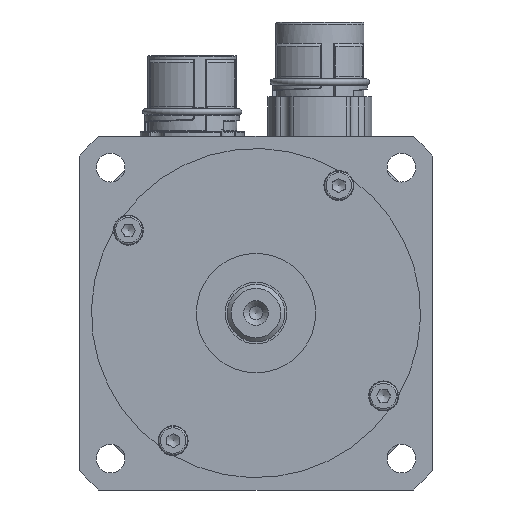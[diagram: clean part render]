
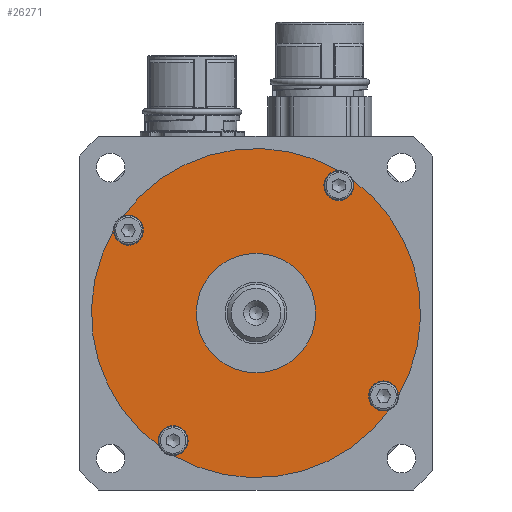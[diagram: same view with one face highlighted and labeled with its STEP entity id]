
A CAD part, left-side view. The second image highlights one B-rep face of the part: STEP entity #26271.
In plain terms, the highlighted planar face has unit normal (-1, 0, 0).
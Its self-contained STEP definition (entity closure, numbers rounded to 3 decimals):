
#1045=FACE_BOUND('',#5862,.T.);
#4150=FACE_OUTER_BOUND('',#5861,.T.);
#5861=EDGE_LOOP('',(#18541,#18542,#18543,#18544,#18545,#18546,#18547,#18548));
#5862=EDGE_LOOP('',(#18549));
#10350=CIRCLE('',#28140,40.);
#10352=CIRCLE('',#28143,40.);
#10354=CIRCLE('',#28146,40.);
#10368=CIRCLE('',#28162,3.65);
#10369=CIRCLE('',#28163,3.65);
#10370=CIRCLE('',#28164,3.65);
#10371=CIRCLE('',#28165,3.65);
#10372=CIRCLE('',#28166,40.);
#10373=CIRCLE('',#28167,14.5);
#12199=VERTEX_POINT('',#40042);
#12201=VERTEX_POINT('',#40046);
#12203=VERTEX_POINT('',#40051);
#12205=VERTEX_POINT('',#40055);
#12207=VERTEX_POINT('',#40060);
#12209=VERTEX_POINT('',#40064);
#12224=VERTEX_POINT('',#40100);
#12225=VERTEX_POINT('',#40104);
#12226=VERTEX_POINT('',#40107);
#14654=EDGE_CURVE('',#12199,#12201,#10350,.T.);
#14658=EDGE_CURVE('',#12203,#12205,#10352,.T.);
#14662=EDGE_CURVE('',#12207,#12209,#10354,.T.);
#14680=EDGE_CURVE('',#12207,#12224,#10368,.T.);
#14681=EDGE_CURVE('',#12203,#12209,#10369,.T.);
#14682=EDGE_CURVE('',#12199,#12205,#10370,.T.);
#14683=EDGE_CURVE('',#12225,#12201,#10371,.T.);
#14684=EDGE_CURVE('',#12225,#12224,#10372,.T.);
#14685=EDGE_CURVE('',#12226,#12226,#10373,.T.);
#18541=ORIENTED_EDGE('',*,*,#14680,.F.);
#18542=ORIENTED_EDGE('',*,*,#14662,.T.);
#18543=ORIENTED_EDGE('',*,*,#14681,.F.);
#18544=ORIENTED_EDGE('',*,*,#14658,.T.);
#18545=ORIENTED_EDGE('',*,*,#14682,.F.);
#18546=ORIENTED_EDGE('',*,*,#14654,.T.);
#18547=ORIENTED_EDGE('',*,*,#14683,.F.);
#18548=ORIENTED_EDGE('',*,*,#14684,.T.);
#18549=ORIENTED_EDGE('',*,*,#14685,.F.);
#25750=PLANE('',#28161);
#26271=ADVANCED_FACE('',(#4150,#1045),#25750,.F.);
#28140=AXIS2_PLACEMENT_3D('',#40048,#31850,#31851);
#28143=AXIS2_PLACEMENT_3D('',#40057,#31858,#31859);
#28146=AXIS2_PLACEMENT_3D('',#40066,#31866,#31867);
#28161=AXIS2_PLACEMENT_3D('',#40099,#31900,#31901);
#28162=AXIS2_PLACEMENT_3D('',#40101,#31902,#31903);
#28163=AXIS2_PLACEMENT_3D('',#40102,#31904,#31905);
#28164=AXIS2_PLACEMENT_3D('',#40103,#31906,#31907);
#28165=AXIS2_PLACEMENT_3D('',#40105,#31908,#31909);
#28166=AXIS2_PLACEMENT_3D('',#40106,#31910,#31911);
#28167=AXIS2_PLACEMENT_3D('',#40108,#31912,#31913);
#31850=DIRECTION('center_axis',(-1.,0.,0.));
#31851=DIRECTION('ref_axis',(0.,0.,
1.));
#31858=DIRECTION('center_axis',(-1.,0.,0.));
#31859=DIRECTION('ref_axis',(0.,0.,
1.));
#31866=DIRECTION('center_axis',(-1.,0.,0.));
#31867=DIRECTION('ref_axis',(0.,0.,
1.));
#31900=DIRECTION('center_axis',(1.,0.,0.));
#31901=DIRECTION('ref_axis',(0.,0.,
-1.));
#31902=DIRECTION('center_axis',(-1.,0.,0.));
#31903=DIRECTION('ref_axis',(0.,0.,1.));
#31904=DIRECTION('center_axis',(-1.,0.,0.));
#31905=DIRECTION('ref_axis',(0.,1.,0.));
#31906=DIRECTION('center_axis',(-1.,0.,0.));
#31907=DIRECTION('ref_axis',(0.,0.,
-1.));
#31908=DIRECTION('center_axis',(-1.,0.,0.));
#31909=DIRECTION('ref_axis',(0.,-1.,0.));
#31910=DIRECTION('center_axis',(-1.,0.,0.));
#31911=DIRECTION('ref_axis',(0.,0.,
1.));
#31912=DIRECTION('center_axis',(-1.,0.,0.));
#31913=DIRECTION('ref_axis',(0.,0.,
1.));
#40042=CARTESIAN_POINT('',(-37.25,-19.99,34.647));
#40046=CARTESIAN_POINT('',(-37.25,32.335,23.547));
#40048=CARTESIAN_POINT('Origin',(-37.25,0.,0.));
#40051=CARTESIAN_POINT('',(-37.25,-34.647,-19.99));
#40055=CARTESIAN_POINT('',(-37.25,-23.547,32.335));
#40057=CARTESIAN_POINT('Origin',(-37.25,0.,0.));
#40060=CARTESIAN_POINT('',(-37.25,19.99,-34.647));
#40064=CARTESIAN_POINT('',(-37.25,-32.335,-23.547));
#40066=CARTESIAN_POINT('Origin',(-37.25,0.,0.));
#40099=CARTESIAN_POINT('Origin',(-37.25,0.,40.));
#40100=CARTESIAN_POINT('',(-37.25,23.547,-32.335));
#40101=CARTESIAN_POINT('Origin',(-37.25,20.15,-31.));
#40102=CARTESIAN_POINT('Origin',(-37.25,-31.,-20.15));
#40103=CARTESIAN_POINT('Origin',(-37.25,-20.15,31.));
#40104=CARTESIAN_POINT('',(-37.25,34.647,19.99));
#40105=CARTESIAN_POINT('Origin',(-37.25,31.,20.15));
#40106=CARTESIAN_POINT('Origin',(-37.25,0.,0.));
#40107=CARTESIAN_POINT('',(-37.25,0.,-14.5));
#40108=CARTESIAN_POINT('Origin',(-37.25,0.,0.));
